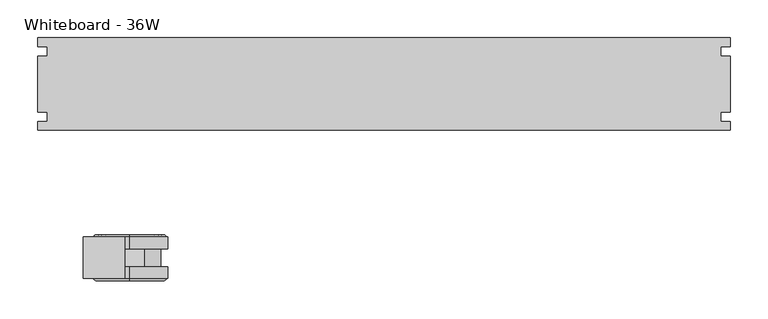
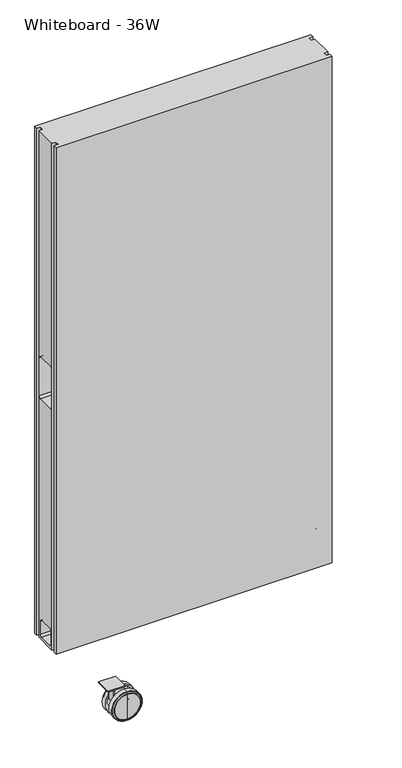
"""IFC4 building model written with IfcOpenShell, lengths in millimetres: furniture geometry, Steelcase Coalesse - Exponents - Storage - Mobile Display Board : Whiteboard - 36W."""

from ifc_helpers import new_model, si_unit, point, frame, frame_2d, origin, place, context, project, spatial, polyline, circle_curve, ellipse_curve, trimmed, segment, composite_curve, outline, extrude, source, transform, mapped, element, save
from ifc_brep_helpers import plane_surface, cylinder_surface, revolved_surface, advanced_brep


def whiteboard_36w_019901e7(model_context):
    return source(origin(), model_context, "Body", "SolidModel", [
        advanced_brep(
        [(914.4, 231.2568925, 1928.6982), (0.0, 231.2568925, 1928.6982), (0.0, 219.8268877, 1928.6982), (12.7000004, 219.8268877, 1928.6982), (12.7000004, 207.2716584, 1928.6982), (0.0, 207.2716584, 1928.6982), (0.0, 133.3221024, 1928.6982), (12.7000004, 133.3221024, 1928.6982), (12.7000004, 120.7668731, 1928.6982), (0.0, 120.7668731, 1928.6982), (0.0, 109.3368683, 1928.6982), (914.4, 109.3368683, 1928.6982), (914.4, 120.7668731, 1928.6982), (901.6999996, 120.7668731, 1928.6982), (901.6999996, 133.3221024, 1928.6982), (914.4, 133.3221024, 1928.6982), (914.4, 207.2716584, 1928.6982), (901.6999996, 207.2716584, 1928.6982), (901.6999996, 219.8268877, 1928.6982), (914.4, 219.8268877, 1928.6982), (914.4, 231.2568925, 155.2702), (914.4, 219.8268877, 155.2702), (901.6999996, 219.8268877, 155.2702), (901.6999996, 207.2716584, 155.2702), (914.4, 207.2716584, 155.2702), (914.4, 133.3221024, 155.2702), (901.6999996, 133.3221024, 155.2702), (901.6999996, 120.7668731, 155.2702), (914.4, 120.7668731, 155.2702), (914.4, 109.3368683, 155.2702), (0.0, 109.3368683, 155.2702), (0.0, 120.7668731, 155.2702), (12.7000004, 120.7668731, 155.2702), (12.7000004, 133.3221024, 155.2702), (0.0, 133.3221024, 155.2702), (0.0, 207.2716584, 155.2702), (12.7000004, 207.2716584, 155.2702), (12.7000004, 219.8268877, 155.2702), (0.0, 219.8268877, 155.2702), (0.0, 231.2568925, 155.2702), (0.0, 198.8718925, 1140.9828993), (0.0, 141.7219046, 1140.9828993), (0.0, 135.3719046, 1134.6328993), (0.0, 135.3719046, 1001.2829477), (0.0, 141.7219046, 994.9329477), (0.0, 198.8718925, 994.9329477), (0.0, 205.2218925, 1001.2829477), (0.0, 205.2218925, 1134.6328993), (0.0, 198.9415891, 216.4334037), (0.0, 192.5915891, 222.7834037), (0.0, 147.5065806, 222.7834037), (0.0, 141.1565806, 216.4334037), (0.0, 141.1565806, 170.3832), (0.0, 147.5065806, 164.0332), (0.0, 192.5915891, 164.0332), (0.0, 198.9415891, 170.3832), (914.4, 141.7219046, 1140.9828993), (914.4, 198.8718925, 1140.9828993), (914.4, 205.2218925, 1134.6328993), (914.4, 205.2218925, 1001.2829477), (914.4, 198.8718925, 994.9329477), (914.4, 141.7219046, 994.9329477), (914.4, 135.3719046, 1001.2829477), (914.4, 135.3719046, 1134.6328993), (914.4, 192.5915891, 222.7834037), (914.4, 198.9415891, 216.4334037), (914.4, 198.9415891, 170.3832), (914.4, 192.5915891, 164.0332), (914.4, 147.5065806, 164.0332), (914.4, 141.1565806, 170.3832), (914.4, 141.1565806, 216.4334037), (914.4, 147.5065806, 222.7834037), (844.55, 141.7219046, 1140.9828993), (844.55, 135.3719046, 1134.6328993), (844.55, 135.3719046, 1001.2829477), (844.55, 141.7219046, 994.9329477), (844.55, 198.8718925, 994.9329477), (844.55, 205.2218925, 1001.2829477), (844.55, 205.2218925, 1134.6328993), (844.55, 198.8718925, 1140.9828993), (844.55, 192.5915891, 222.7834037), (844.55, 147.5065806, 222.7834037), (844.55, 141.1565806, 216.4334037), (844.55, 141.1565806, 170.3832), (844.55, 147.5065806, 164.0332), (844.55, 192.5915891, 164.0332), (844.55, 198.9415891, 170.3832), (844.55, 198.9415891, 216.4334037), (69.85, 141.7219046, 1140.9828993), (69.85, 198.8718925, 1140.9828993), (69.85, 205.2218925, 1134.6328993), (69.85, 205.2218925, 1001.2829477), (69.85, 198.8718925, 994.9329477), (69.85, 141.7219046, 994.9329477), (69.85, 135.3719046, 1001.2829477), (69.85, 135.3719046, 1134.6328993), (69.85, 192.5915891, 222.7834037), (69.85, 198.9415891, 216.4334037), (69.85, 198.9415891, 170.3832), (69.85, 192.5915891, 164.0332), (69.85, 147.5065806, 164.0332), (69.85, 141.1565806, 170.3832), (69.85, 141.1565806, 216.4334037), (69.85, 147.5065806, 222.7834037)],
        [
            (0, 1),
            (1, 2),
            (2, 3),
            (3, 4),
            (4, 5),
            (5, 6),
            (6, 7),
            (7, 8),
            (8, 9),
            (9, 10),
            (10, 11),
            (11, 12),
            (12, 13),
            (13, 14),
            (14, 15),
            (15, 16),
            (16, 17),
            (17, 18),
            (18, 19),
            (19, 0),
            (20, 21),
            (21, 22),
            (22, 23),
            (23, 24),
            (24, 25),
            (25, 26),
            (26, 27),
            (27, 28),
            (28, 29),
            (29, 30),
            (30, 31),
            (31, 32),
            (32, 33),
            (33, 34),
            (34, 35),
            (35, 36),
            (36, 37),
            (37, 38),
            (38, 39),
            (39, 20),
            (0, 20),
            (39, 1),
            (38, 2),
            (37, 3),
            (36, 4),
            (35, 5),
            (34, 6),
            (40, 41),
            (41, 42, circle_curve(frame((0.0, 141.7219046, 1134.6328993), z_axis=(1.0, 0.0, 0.0), x_axis=(0.0, 1.0, 0.0)), 6.35)),
            (42, 43),
            (43, 44, circle_curve(frame((0.0, 141.7219046, 1001.2829477), z_axis=(1.0, 0.0, 0.0), x_axis=(0.0, 1.0, 0.0)), 6.35)),
            (44, 45),
            (45, 46, circle_curve(frame((0.0, 198.8718925, 1001.2829477), z_axis=(1.0, 0.0, 0.0), x_axis=(0.0, 1.0, 0.0)), 6.35)),
            (46, 47),
            (47, 40, circle_curve(frame((0.0, 198.8718925, 1134.6328993), z_axis=(1.0, 0.0, 0.0), x_axis=(0.0, 1.0, 0.0)), 6.35)),
            (48, 49, circle_curve(frame((0.0, 192.5915891, 216.4334037), z_axis=(1.0, 0.0, 0.0), x_axis=(0.0, 1.0, 0.0)), 6.35)),
            (49, 50),
            (50, 51, circle_curve(frame((0.0, 147.5065806, 216.4334037), z_axis=(1.0, 0.0, 0.0), x_axis=(0.0, 1.0, 0.0)), 6.35)),
            (51, 52),
            (52, 53, circle_curve(frame((0.0, 147.5065806, 170.3832), z_axis=(1.0, 0.0, 0.0), x_axis=(0.0, 1.0, 0.0)), 6.35)),
            (53, 54),
            (54, 55, circle_curve(frame((0.0, 192.5915891, 170.3832), z_axis=(1.0, 0.0, 0.0), x_axis=(0.0, 1.0, 0.0)), 6.35)),
            (55, 48),
            (33, 7),
            (32, 8),
            (31, 9),
            (30, 10),
            (29, 11),
            (28, 12),
            (27, 13),
            (26, 14),
            (25, 15),
            (24, 16),
            (56, 57),
            (57, 58, circle_curve(frame((914.4, 198.8718925, 1134.6328993), z_axis=(-1.0, 0.0, 0.0), x_axis=(0.0, 1.0, 0.0)), 6.35)),
            (58, 59),
            (59, 60, circle_curve(frame((914.4, 198.8718925, 1001.2829477), z_axis=(-1.0, 0.0, 0.0), x_axis=(0.0, 1.0, 0.0)), 6.35)),
            (60, 61),
            (61, 62, circle_curve(frame((914.4, 141.7219046, 1001.2829477), z_axis=(-1.0, 0.0, 0.0), x_axis=(0.0, 1.0, 0.0)), 6.35)),
            (62, 63),
            (63, 56, circle_curve(frame((914.4, 141.7219046, 1134.6328993), z_axis=(-1.0, 0.0, 0.0), x_axis=(0.0, 1.0, 0.0)), 6.35)),
            (64, 65, circle_curve(frame((914.4, 192.5915891, 216.4334037), z_axis=(-1.0, 0.0, 0.0), x_axis=(0.0, 1.0, 0.0)), 6.35)),
            (65, 66),
            (66, 67, circle_curve(frame((914.4, 192.5915891, 170.3832), z_axis=(-1.0, 0.0, 0.0), x_axis=(0.0, 1.0, 0.0)), 6.35)),
            (67, 68),
            (68, 69, circle_curve(frame((914.4, 147.5065806, 170.3832), z_axis=(-1.0, 0.0, 0.0), x_axis=(0.0, 1.0, 0.0)), 6.35)),
            (69, 70),
            (70, 71, circle_curve(frame((914.4, 147.5065806, 216.4334037), z_axis=(-1.0, 0.0, 0.0), x_axis=(0.0, 1.0, 0.0)), 6.35)),
            (71, 64),
            (23, 17),
            (22, 18),
            (21, 19),
            (72, 73, circle_curve(frame((844.55, 141.7219046, 1134.6328993), z_axis=(1.0, 0.0, 0.0), x_axis=(0.0, 1.0, 0.0)), 6.35)),
            (73, 74),
            (74, 75, circle_curve(frame((844.55, 141.7219046, 1001.2829477), z_axis=(1.0, 0.0, 0.0), x_axis=(0.0, 1.0, 0.0)), 6.35)),
            (75, 76),
            (76, 77, circle_curve(frame((844.55, 198.8718925, 1001.2829477), z_axis=(1.0, 0.0, 0.0), x_axis=(0.0, 1.0, 0.0)), 6.35)),
            (77, 78),
            (78, 79, circle_curve(frame((844.55, 198.8718925, 1134.6328993), z_axis=(1.0, 0.0, 0.0), x_axis=(0.0, 1.0, 0.0)), 6.35)),
            (79, 72),
            (80, 81),
            (81, 82, circle_curve(frame((844.55, 147.5065806, 216.4334037), z_axis=(1.0, 0.0, 0.0), x_axis=(0.0, 1.0, 0.0)), 6.35)),
            (82, 83),
            (83, 84, circle_curve(frame((844.55, 147.5065806, 170.3832), z_axis=(1.0, 0.0, 0.0), x_axis=(0.0, 1.0, 0.0)), 6.35)),
            (84, 85),
            (85, 86, circle_curve(frame((844.55, 192.5915891, 170.3832), z_axis=(1.0, 0.0, 0.0), x_axis=(0.0, 1.0, 0.0)), 6.35)),
            (86, 87),
            (87, 80, circle_curve(frame((844.55, 192.5915891, 216.4334037), z_axis=(1.0, 0.0, 0.0), x_axis=(0.0, 1.0, 0.0)), 6.35)),
            (79, 57),
            (56, 72),
            (78, 58),
            (77, 59),
            (76, 60),
            (75, 61),
            (74, 62),
            (73, 63),
            (87, 65),
            (64, 80),
            (86, 66),
            (85, 67),
            (84, 68),
            (83, 69),
            (82, 70),
            (81, 71),
            (88, 89),
            (89, 90, circle_curve(frame((69.85, 198.8718925, 1134.6328993), z_axis=(-1.0, 0.0, 0.0), x_axis=(0.0, 1.0, 0.0)), 6.35)),
            (90, 91),
            (91, 92, circle_curve(frame((69.85, 198.8718925, 1001.2829477), z_axis=(-1.0, 0.0, 0.0), x_axis=(0.0, 1.0, 0.0)), 6.35)),
            (92, 93),
            (93, 94, circle_curve(frame((69.85, 141.7219046, 1001.2829477), z_axis=(-1.0, 0.0, 0.0), x_axis=(0.0, 1.0, 0.0)), 6.35)),
            (94, 95),
            (95, 88, circle_curve(frame((69.85, 141.7219046, 1134.6328993), z_axis=(-1.0, 0.0, 0.0), x_axis=(0.0, 1.0, 0.0)), 6.35)),
            (96, 97, circle_curve(frame((69.85, 192.5915891, 216.4334037), z_axis=(-1.0, 0.0, 0.0), x_axis=(0.0, 1.0, 0.0)), 6.35)),
            (97, 98),
            (98, 99, circle_curve(frame((69.85, 192.5915891, 170.3832), z_axis=(-1.0, 0.0, 0.0), x_axis=(0.0, 1.0, 0.0)), 6.35)),
            (99, 100),
            (100, 101, circle_curve(frame((69.85, 147.5065806, 170.3832), z_axis=(-1.0, 0.0, 0.0), x_axis=(0.0, 1.0, 0.0)), 6.35)),
            (101, 102),
            (102, 103, circle_curve(frame((69.85, 147.5065806, 216.4334037), z_axis=(-1.0, 0.0, 0.0), x_axis=(0.0, 1.0, 0.0)), 6.35)),
            (103, 96),
            (95, 42),
            (41, 88),
            (94, 43),
            (93, 44),
            (92, 45),
            (91, 46),
            (90, 47),
            (89, 40),
            (103, 50),
            (49, 96),
            (102, 51),
            (101, 52),
            (100, 53),
            (99, 54),
            (98, 55),
            (97, 48),
        ],
        [
            plane_surface(frame((0.0, 231.2568925, 1928.6982), z_axis=(0.0, 0.0, 1.0), x_axis=(-1.0, 0.0, 0.0))),
            plane_surface(frame((0.0, 231.2568925, 155.2702), z_axis=(0.0, 0.0, -1.0), x_axis=(1.0, 0.0, 0.0))),
            plane_surface(frame((914.4, 231.2568925, 1928.6982), z_axis=(0.0, 1.0, 0.0), x_axis=(0.0, 0.0, -1.0))),
            plane_surface(frame((0.0, 231.2568925, 1928.6982), z_axis=(-1.0, 0.0, 0.0), x_axis=(0.0, 0.0, -1.0))),
            plane_surface(frame((0.0, 219.8268877, 1928.6982), z_axis=(0.0, -1.0, 0.0), x_axis=(0.0, 0.0, -1.0))),
            plane_surface(frame((12.7000004, 219.8268877, 1928.6982), z_axis=(-1.0, 0.0, 0.0), x_axis=(0.0, 0.0, -1.0))),
            plane_surface(frame((12.7000004, 207.2716584, 1928.6982), z_axis=(0.0, 1.0, 0.0), x_axis=(0.0, 0.0, -1.0))),
            plane_surface(frame((0.0, 207.2716584, 1928.6982), z_axis=(-1.0, 0.0, 0.0), x_axis=(0.0, 0.0, -1.0))),
            plane_surface(frame((0.0, 133.3221024, 1928.6982), z_axis=(0.0, -1.0, 0.0), x_axis=(0.0, 0.0, -1.0))),
            plane_surface(frame((12.7000004, 133.3221024, 1928.6982), z_axis=(-1.0, 0.0, 0.0), x_axis=(0.0, 0.0, -1.0))),
            plane_surface(frame((12.7000004, 120.7668731, 1928.6982), z_axis=(0.0, 1.0, 0.0), x_axis=(0.0, 0.0, -1.0))),
            plane_surface(frame((0.0, 120.7668731, 1928.6982), z_axis=(-1.0, 0.0, 0.0), x_axis=(0.0, 0.0, -1.0))),
            plane_surface(frame((0.0, 109.3368683, 1928.6982), z_axis=(0.0, -1.0, 0.0), x_axis=(0.0, 0.0, -1.0))),
            plane_surface(frame((914.4, 109.3368683, 1928.6982), z_axis=(1.0, 0.0, 0.0), x_axis=(0.0, 0.0, -1.0))),
            plane_surface(frame((914.4, 120.7668731, 1928.6982), z_axis=(0.0, 1.0, 0.0), x_axis=(0.0, 0.0, -1.0))),
            plane_surface(frame((901.6999996, 120.7668731, 1928.6982), z_axis=(1.0, 0.0, 0.0), x_axis=(0.0, 0.0, -1.0))),
            plane_surface(frame((901.6999996, 133.3221024, 1928.6982), z_axis=(0.0, -1.0, 0.0), x_axis=(0.0, 0.0, -1.0))),
            plane_surface(frame((914.4, 133.3221024, 1928.6982), z_axis=(1.0, 0.0, 0.0), x_axis=(0.0, 0.0, -1.0))),
            plane_surface(frame((914.4, 207.2716584, 1928.6982), z_axis=(0.0, 1.0, 0.0), x_axis=(0.0, 0.0, -1.0))),
            plane_surface(frame((901.6999996, 207.2716584, 1928.6982), z_axis=(1.0, 0.0, 0.0), x_axis=(0.0, 0.0, -1.0))),
            plane_surface(frame((901.6999996, 219.8268877, 1928.6982), z_axis=(0.0, -1.0, 0.0), x_axis=(0.0, 0.0, -1.0))),
            plane_surface(frame((914.4, 219.8268877, 1928.6982), z_axis=(1.0, 0.0, 0.0), x_axis=(0.0, 0.0, -1.0))),
            plane_surface(frame((844.55, 198.8718804, 1140.9828993), z_axis=(1.0, 0.0, 0.0), x_axis=(0.0, 1.0, 0.0))),
            plane_surface(frame((844.55, 141.7219046, 1140.9828993), z_axis=(0.0, 0.0, -1.0), x_axis=(1.0, 0.0, 0.0))),
            revolved_surface(polyline([(844.55, 205.2218925, 1134.6328993), (914.4, 205.2218925, 1134.6328993)]), (914.4, 198.8718925, 1134.6328993), (-1.0, 0.0, 0.0)),
            plane_surface(frame((844.55, 205.2218925, 1134.6328993), z_axis=(0.0, -1.0, 0.0), x_axis=(1.0, 0.0, 0.0))),
            revolved_surface(polyline([(844.55, 205.2218925, 1001.2829477), (914.4, 205.2218925, 1001.2829477)]), (914.4, 198.8718925, 1001.2829477), (-1.0, 0.0, 0.0)),
            plane_surface(frame((844.55, 198.8718925, 994.9329477), z_axis=(0.0, 0.0, 1.0), x_axis=(1.0, 0.0, 0.0))),
            revolved_surface(polyline([(844.55, 148.07190459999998, 1001.2829477), (914.4, 148.07190459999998, 1001.2829477)]), (914.4, 141.7219046, 1001.2829477), (-1.0, 0.0, 0.0)),
            plane_surface(frame((844.55, 135.3719046, 1001.2829477), z_axis=(0.0, 1.0, 0.0), x_axis=(1.0, 0.0, 0.0))),
            revolved_surface(polyline([(844.55, 148.07190459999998, 1134.6328993), (914.4, 148.07190459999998, 1134.6328993)]), (914.4, 141.7219046, 1134.6328993), (-1.0, 0.0, 0.0)),
            revolved_surface(polyline([(844.55, 198.9415891, 216.4334037), (914.4, 198.9415891, 216.4334037)]), (1220.4699806, 192.5915891, 216.4334037), (-1.0, 0.0, 0.0)),
            plane_surface(frame((844.55, 198.9415891, 216.4334037), z_axis=(0.0, -1.0, 0.0), x_axis=(1.0, 0.0, 0.0))),
            revolved_surface(polyline([(844.55, 198.9415891, 170.3832), (914.4, 198.9415891, 170.3832)]), (1220.4699806, 192.5915891, 170.3832), (-1.0, 0.0, 0.0)),
            plane_surface(frame((844.55, 192.5915891, 164.0332), z_axis=(0.0, 0.0, 1.0), x_axis=(1.0, 0.0, 0.0))),
            revolved_surface(polyline([(844.55, 153.8565806, 170.3832), (914.4, 153.8565806, 170.3832)]), (1220.4699806, 147.5065806, 170.3832), (-1.0, 0.0, 0.0)),
            plane_surface(frame((844.55, 141.1565806, 170.3832), z_axis=(0.0, 1.0, 0.0), x_axis=(1.0, 0.0, 0.0))),
            revolved_surface(polyline([(844.55, 153.8565806, 216.4334037), (914.4, 153.8565806, 216.4334037)]), (1220.4699806, 147.5065806, 216.4334037), (-1.0, 0.0, 0.0)),
            plane_surface(frame((844.55, 147.5065806, 222.7834037), z_axis=(0.0, 0.0, -1.0), x_axis=(1.0, 0.0, 0.0))),
            plane_surface(frame((69.85, 148.0719046, 1134.6328993), z_axis=(-1.0, 0.0, 0.0), x_axis=(0.0, 0.0, 1.0))),
            revolved_surface(polyline([(69.85, 148.07190459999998, 1134.6328993), (0.0, 148.07190459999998, 1134.6328993)]), (0.0, 141.7219046, 1134.6328993), (1.0, 0.0, 0.0)),
            plane_surface(frame((69.85, 135.3719046, 1134.6328993), z_axis=(0.0, 1.0, 0.0), x_axis=(-1.0, 0.0, 0.0))),
            revolved_surface(polyline([(69.85, 148.07190459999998, 1001.2829477), (0.0, 148.07190459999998, 1001.2829477)]), (0.0, 141.7219046, 1001.2829477), (1.0, 0.0, 0.0)),
            plane_surface(frame((69.85, 141.7219046, 994.9329477), z_axis=(0.0, 0.0, 1.0), x_axis=(-1.0, 0.0, 0.0))),
            revolved_surface(polyline([(69.85, 205.2218925, 1001.2829477), (0.0, 205.2218925, 1001.2829477)]), (0.0, 198.8718925, 1001.2829477), (1.0, 0.0, 0.0)),
            plane_surface(frame((69.85, 205.2218925, 1001.2829477), z_axis=(0.0, -1.0, 0.0), x_axis=(-1.0, 0.0, 0.0))),
            revolved_surface(polyline([(69.85, 205.2218925, 1134.6328993), (0.0, 205.2218925, 1134.6328993)]), (0.0, 198.8718925, 1134.6328993), (1.0, 0.0, 0.0)),
            plane_surface(frame((69.85, 198.8718925, 1140.9828993), z_axis=(0.0, 0.0, -1.0), x_axis=(-1.0, 0.0, 0.0))),
            plane_surface(frame((69.85, 192.5915891, 222.7834037), z_axis=(0.0, 0.0, -1.0), x_axis=(-1.0, 0.0, 0.0))),
            revolved_surface(polyline([(69.85, 153.8565806, 216.4334037), (0.0, 153.8565806, 216.4334037)]), (0.0, 147.5065806, 216.4334037), (1.0, 0.0, 0.0)),
            plane_surface(frame((69.85, 141.1565806, 216.4334037), z_axis=(0.0, 1.0, 0.0), x_axis=(-1.0, 0.0, 0.0))),
            revolved_surface(polyline([(69.85, 153.8565806, 170.3832), (0.0, 153.8565806, 170.3832)]), (0.0, 147.5065806, 170.3832), (1.0, 0.0, 0.0)),
            plane_surface(frame((69.85, 147.5065806, 164.0332), z_axis=(0.0, 0.0, 1.0), x_axis=(-1.0, 0.0, 0.0))),
            revolved_surface(polyline([(69.85, 198.9415891, 170.3832), (0.0, 198.9415891, 170.3832)]), (0.0, 192.5915891, 170.3832), (1.0, 0.0, 0.0)),
            plane_surface(frame((69.85, 198.9415891, 170.3832), z_axis=(0.0, -1.0, 0.0), x_axis=(-1.0, 0.0, 0.0))),
            revolved_surface(polyline([(69.85, 198.9415891, 216.4334037), (0.0, 198.9415891, 216.4334037)]), (0.0, 192.5915891, 216.4334037), (1.0, 0.0, 0.0)),
        ],
        [
            (0, [[1, 2, 3, 4, 5, 6, 7, 8, 9, 10, 11, 12, 13, 14, 15, 16, 17, 18, 19, 20]]),
            (1, [[21, 22, 23, 24, 25, 26, 27, 28, 29, 30, 31, 32, 33, 34, 35, 36, 37, 38, 39, 40]]),
            (2, [[-1, 41, -40, 42]]),
            (3, [[-2, -42, -39, 43]]),
            (4, [[-3, -43, -38, 44]]),
            (5, [[-4, -44, -37, 45]]),
            (6, [[-5, -45, -36, 46]]),
            (7, [[-6, -46, -35, 47], [48, 49, 50, 51, 52, 53, 54, 55], [56, 57, 58, 59, 60, 61, 62, 63]]),
            (8, [[-7, -47, -34, 64]]),
            (9, [[-8, -64, -33, 65]]),
            (10, [[-9, -65, -32, 66]]),
            (11, [[-10, -66, -31, 67]]),
            (12, [[-11, -67, -30, 68]]),
            (13, [[-12, -68, -29, 69]]),
            (14, [[-13, -69, -28, 70]]),
            (15, [[-14, -70, -27, 71]]),
            (16, [[-15, -71, -26, 72]]),
            (17, [[-16, -72, -25, 73], [74, 75, 76, 77, 78, 79, 80, 81], [82, 83, 84, 85, 86, 87, 88, 89]]),
            (18, [[-17, -73, -24, 90]]),
            (19, [[-18, -90, -23, 91]]),
            (20, [[-19, -91, -22, 92]]),
            (21, [[-20, -92, -21, -41]]),
            (22, [[93, 94, 95, 96, 97, 98, 99, 100]]),
            (22, [[101, 102, 103, 104, 105, 106, 107, 108]]),
            (23, [[-100, 109, -74, 110]]),
            (24, [[-99, 111, -75, -109]]),
            (25, [[-98, 112, -76, -111]]),
            (26, [[-97, 113, -77, -112]]),
            (27, [[-96, 114, -78, -113]]),
            (28, [[-95, 115, -79, -114]]),
            (29, [[-94, 116, -80, -115]]),
            (30, [[-93, -110, -81, -116]]),
            (31, [[-108, 117, -82, 118]]),
            (32, [[-107, 119, -83, -117]]),
            (33, [[-106, 120, -84, -119]]),
            (34, [[-105, 121, -85, -120]]),
            (35, [[-104, 122, -86, -121]]),
            (36, [[-103, 123, -87, -122]]),
            (37, [[-102, 124, -88, -123]]),
            (38, [[-101, -118, -89, -124]]),
            (39, [[125, 126, 127, 128, 129, 130, 131, 132]]),
            (39, [[133, 134, 135, 136, 137, 138, 139, 140]]),
            (40, [[-132, 141, -49, 142]]),
            (41, [[-131, 143, -50, -141]]),
            (42, [[-130, 144, -51, -143]]),
            (43, [[-129, 145, -52, -144]]),
            (44, [[-128, 146, -53, -145]]),
            (45, [[-127, 147, -54, -146]]),
            (46, [[-126, 148, -55, -147]]),
            (47, [[-125, -142, -48, -148]]),
            (48, [[-140, 149, -57, 150]]),
            (49, [[-139, 151, -58, -149]]),
            (50, [[-138, 152, -59, -151]]),
            (51, [[-137, 153, -60, -152]]),
            (52, [[-136, 154, -61, -153]]),
            (53, [[-135, 155, -62, -154]]),
            (54, [[-134, 156, -63, -155]]),
            (55, [[-133, -150, -56, -156]]),
        ],
    ),
        advanced_brep(
        [(121.6278984, -28.9699484, 93.7248565), (121.6278984, -28.9699484, 7.16417), (121.6278984, -28.9699484, 50.4445132), (121.6278984, -29.195866, 95.950615), (121.6278984, -29.195866, 4.9384115), (121.6278984, -31.890984, 99.0695917), (121.6278984, -31.890984, 1.8194348), (121.6278984, -31.890984, 100.8890265), (121.6278984, -31.890984, 0.0), (121.6278984, -47.5881484, 100.8890265), (121.6278984, -47.5881484, 0.0), (121.6278984, -47.5881484, 67.9452274), (121.6278984, -47.5881484, 32.943799), (121.6278984, -51.5441984, 67.9452274), (121.6278984, -51.5441984, 32.943799), (121.6278984, -51.5441984, 50.4445132)],
        [
            (0, 1, circle_curve(frame((121.6278984, -28.9699484, 50.4445132), z_axis=(0.0, 1.0, 0.0), x_axis=(0.0, 0.0, -1.0)), 43.2803433)),
            (1, 2),
            (2, 0),
            (1, 0, circle_curve(frame((121.6278984, -28.9699484, 50.4445132), z_axis=(0.0, 1.0, 0.0), x_axis=(0.0, 0.0, -1.0)), 43.2803433)),
            (3, 4, circle_curve(frame((121.6278984, -29.195866, 50.4445132), z_axis=(0.0, 1.0, 0.0), x_axis=(0.0, 0.0, -1.0)), 45.5061018)),
            (4, 1, circle_curve(frame((121.6278984, -40.0470836, 7.16417), z_axis=(1.0, 0.0, 0.0), x_axis=(0.0, 1.0, 0.0)), 11.0771352)),
            (0, 3, circle_curve(frame((121.6278984, -40.0470836, 93.7248565), z_axis=(1.0, 0.0, 0.0), x_axis=(0.0, 1.0, 0.0)), 11.0771352)),
            (4, 3, circle_curve(frame((121.6278984, -29.195866, 50.4445132), z_axis=(0.0, 1.0, 0.0), x_axis=(0.0, 0.0, -1.0)), 45.5061018)),
            (5, 6, circle_curve(frame((121.6278984, -31.890984, 50.4445132), z_axis=(0.0, 1.0, 0.0), x_axis=(0.0, 0.0, -1.0)), 48.6250784)),
            (6, 4, circle_curve(frame((121.6278984, -33.3293578, 5.7862568), z_axis=(1.0, 0.0, 0.0), x_axis=(0.0, 1.0, 0.0)), 4.2195493)),
            (3, 5, circle_curve(frame((121.6278984, -33.3293578, 95.1027696), z_axis=(1.0, 0.0, 0.0), x_axis=(0.0, 1.0, 0.0)), 4.2195493)),
            (6, 5, circle_curve(frame((121.6278984, -31.890984, 50.4445132), z_axis=(0.0, 1.0, 0.0), x_axis=(0.0, 0.0, -1.0)), 48.6250784)),
            (7, 8, circle_curve(frame((121.6278984, -31.890984, 50.4445132), z_axis=(0.0, 1.0, 0.0), x_axis=(0.0, 0.0, -1.0)), 50.4445132)),
            (8, 6),
            (5, 7),
            (8, 7, circle_curve(frame((121.6278984, -31.890984, 50.4445132), z_axis=(0.0, 1.0, 0.0), x_axis=(0.0, 0.0, -1.0)), 50.4445132)),
            (9, 10, circle_curve(frame((121.6278984, -47.5881484, 50.4445132), z_axis=(0.0, 1.0, 0.0), x_axis=(0.0, 0.0, -1.0)), 50.4445132)),
            (10, 8),
            (7, 9),
            (10, 9, circle_curve(frame((121.6278984, -47.5881484, 50.4445132), z_axis=(0.0, 1.0, 0.0), x_axis=(0.0, 0.0, -1.0)), 50.4445132)),
            (11, 12, circle_curve(frame((121.6278984, -47.5881484, 50.4445132), z_axis=(0.0, 1.0, 0.0), x_axis=(0.0, 0.0, -1.0)), 17.5007142)),
            (12, 10),
            (9, 11),
            (12, 11, circle_curve(frame((121.6278984, -47.5881484, 50.4445132), z_axis=(0.0, 1.0, 0.0), x_axis=(0.0, 0.0, -1.0)), 17.5007142)),
            (13, 14, circle_curve(frame((121.6278984, -51.5441984, 50.4445132), z_axis=(0.0, 1.0, 0.0), x_axis=(0.0, 0.0, -1.0)), 17.5007142)),
            (14, 12),
            (11, 13),
            (14, 13, circle_curve(frame((121.6278984, -51.5441984, 50.4445132), z_axis=(0.0, 1.0, 0.0), x_axis=(0.0, 0.0, -1.0)), 17.5007142)),
            (15, 14),
            (13, 15),
        ],
        [
            plane_surface(frame((121.6278984, -28.9699484, 50.4445132), z_axis=(0.0, 1.0, 0.0), x_axis=(0.0, 0.0, -1.0))),
            revolved_surface(trimmed(ellipse_curve(frame((121.6278984, -40.0470836, 7.16417), z_axis=(-1.0, 0.0, 0.0), x_axis=(0.0, 1.0, 0.0)), 11.0771352, 11.0771352), [point((121.6278984, -28.9699484, 7.16417))], [point((121.6278984, -29.195866, 4.9384115))], True, "CARTESIAN"), (121.6278984, -32.3354484, 50.4445132), (0.0, -1.0, 0.0)),
            revolved_surface(trimmed(ellipse_curve(frame((121.6278984, -33.3293578, 5.7862568), z_axis=(-1.0, 0.0, 0.0), x_axis=(0.0, 1.0, 0.0)), 4.2195493, 4.2195493), [point((121.6278984, -29.195866, 4.9384115))], [point((121.6278984, -31.890984, 1.8194348))], True, "CARTESIAN"), (121.6278984, -32.3354484, 50.4445132), (0.0, -1.0, 0.0)),
            plane_surface(frame((121.6278984, -31.890984, 50.4445132), z_axis=(0.0, 1.0, 0.0), x_axis=(0.0, 0.0, -1.0))),
            cylinder_surface(frame((121.6278984, -32.3354484, 50.4445132), z_axis=(0.0, -1.0, 0.0), x_axis=(0.0, 0.0, -1.0)), 50.4445132),
            plane_surface(frame((121.6278984, -47.5881484, 50.4445132), z_axis=(0.0, -1.0, 0.0), x_axis=(0.0, 0.0, -1.0))),
            cylinder_surface(frame((121.6278984, -32.3354484, 50.4445132), z_axis=(0.0, -1.0, 0.0), x_axis=(0.0, 0.0, -1.0)), 17.5007142),
            plane_surface(frame((121.6278984, -51.5441984, 50.4445132), z_axis=(0.0, -1.0, 0.0), x_axis=(0.0, 0.0, -1.0))),
        ],
        [
            (0, [[1, 2, 3]]),
            (0, [[4, -3, -2]]),
            (1, [[5, 6, -1, 7]]),
            (1, [[8, -7, -4, -6]]),
            (2, [[9, 10, -5, 11]]),
            (2, [[12, -11, -8, -10]]),
            (3, [[13, 14, -9, 15]]),
            (3, [[16, -15, -12, -14]]),
            (4, [[17, 18, -13, 19]]),
            (4, [[20, -19, -16, -18]]),
            (5, [[21, 22, -17, 23]]),
            (5, [[24, -23, -20, -22]]),
            (6, [[25, 26, -21, 27]]),
            (6, [[28, -27, -24, -26]]),
            (7, [[29, -25, 30]]),
            (7, [[-30, -28, -29]]),
        ],
    ),
        extrude(outline(composite_curve([segment(polyline([(51.3715027, 152.4507984), (28.4632097, 152.4507984)]), True, "CONTINUOUS"), segment(trimmed(circle_curve(frame_2d((55.7451933, 120.0457245)), 42.360305), [point((28.4632097, 152.4507984))], [point((92.46506, 141.1655453))], False, "CARTESIAN"), True, "CONTINUOUS"), segment(trimmed(circle_curve(frame_2d((52.6047711, 122.1125998)), 44.1798299), [point((92.46506, 141.1655453))], [point((51.3715027, 77.9499865))], False, "CARTESIAN"), True, "CONTINUOUS"), segment(polyline([(51.3715027, 77.9499865), (51.3715027, 152.4507984)]), True, "CONTINUOUS")], self_intersect=False)), frame((0.0, -71.1936132, 0.0), z_axis=(0.0, 1.0, 0.0), x_axis=(0.0, 0.0, 1.0)), (0.0, 0.0, 1.0), 23.6054648),
        extrude(outline(composite_curve([segment(trimmed(circle_curve(frame_2d((87.284686, -59.3908808)), 7.6088517), [point((87.284686, -51.7820291))], [point((87.284686, -66.9997325))], False, "CARTESIAN"), True, "CONTINUOUS"), segment(trimmed(circle_curve(frame_2d((87.284686, -59.3908808)), 7.6088517), [point((87.284686, -66.9997325))], [point((87.284686, -51.7820291))], False, "CARTESIAN"), True, "CONTINUOUS")], self_intersect=False)), frame((0.0, 0.0, 71.2879049), z_axis=(0.0, 0.0, 1.0), x_axis=(1.0, 0.0, 0.0)), (0.0, 0.0, 1.0), 48.3206977),
        extrude(outline(polyline([(114.9222984, -86.9387325), (59.8042984, -86.9387325), (59.8042984, -31.8207325), (114.9222984, -31.8207325), (114.9222984, -86.9387325)])), frame((0.0, 0.0, 119.6086027), z_axis=(0.0, 0.0, 1.0), x_axis=(1.0, 0.0, 0.0)), (0.0, 0.0, 1.0), 3.302),
        advanced_brep(
        [(121.6278984, -67.2375632, 67.9452274), (121.6278984, -67.2375632, 32.943799), (121.6278984, -67.2375632, 50.4445132), (121.6278984, -71.1936132, 67.9452274), (121.6278984, -71.1936132, 32.943799), (121.6278984, -71.1936132, 100.8890265), (121.6278984, -71.1936132, 0.0), (121.6278984, -86.8907776, 100.8890265), (121.6278984, -86.8907776, 0.0), (121.6278984, -86.8907776, 99.0695917), (121.6278984, -86.8907776, 1.8194348), (121.6278984, -89.5858956, 95.950615), (121.6278984, -89.5858956, 4.9384115), (121.6278984, -89.8118132, 93.7248565), (121.6278984, -89.8118132, 7.16417), (121.6278984, -89.8118132, 50.4445132)],
        [
            (0, 1, circle_curve(frame((121.6278984, -67.2375632, 50.4445132), z_axis=(0.0, 1.0, 0.0), x_axis=(0.0, 0.0, -1.0)), 17.5007142)),
            (1, 2),
            (2, 0),
            (1, 0, circle_curve(frame((121.6278984, -67.2375632, 50.4445132), z_axis=(0.0, 1.0, 0.0), x_axis=(0.0, 0.0, -1.0)), 17.5007142)),
            (3, 4, circle_curve(frame((121.6278984, -71.1936132, 50.4445132), z_axis=(0.0, 1.0, 0.0), x_axis=(0.0, 0.0, -1.0)), 17.5007142)),
            (4, 1),
            (0, 3),
            (4, 3, circle_curve(frame((121.6278984, -71.1936132, 50.4445132), z_axis=(0.0, 1.0, 0.0), x_axis=(0.0, 0.0, -1.0)), 17.5007142)),
            (5, 6, circle_curve(frame((121.6278984, -71.1936132, 50.4445132), z_axis=(0.0, 1.0, 0.0), x_axis=(0.0, 0.0, -1.0)), 50.4445132)),
            (6, 4),
            (3, 5),
            (6, 5, circle_curve(frame((121.6278984, -71.1936132, 50.4445132), z_axis=(0.0, 1.0, 0.0), x_axis=(0.0, 0.0, -1.0)), 50.4445132)),
            (7, 8, circle_curve(frame((121.6278984, -86.8907776, 50.4445132), z_axis=(0.0, 1.0, 0.0), x_axis=(0.0, 0.0, -1.0)), 50.4445132)),
            (8, 6),
            (5, 7),
            (8, 7, circle_curve(frame((121.6278984, -86.8907776, 50.4445132), z_axis=(0.0, 1.0, 0.0), x_axis=(0.0, 0.0, -1.0)), 50.4445132)),
            (9, 10, circle_curve(frame((121.6278984, -86.8907776, 50.4445132), z_axis=(0.0, 1.0, 0.0), x_axis=(0.0, 0.0, -1.0)), 48.6250784)),
            (10, 8),
            (7, 9),
            (10, 9, circle_curve(frame((121.6278984, -86.8907776, 50.4445132), z_axis=(0.0, 1.0, 0.0), x_axis=(0.0, 0.0, -1.0)), 48.6250784)),
            (11, 12, circle_curve(frame((121.6278984, -89.5858956, 50.4445132), z_axis=(0.0, 1.0, 0.0), x_axis=(0.0, 0.0, -1.0)), 45.5061018)),
            (12, 10, circle_curve(frame((121.6278984, -85.4524038, 5.7862568), z_axis=(1.0, 0.0, 0.0), x_axis=(0.0, -1.0, 0.0)), 4.2195493)),
            (9, 11, circle_curve(frame((121.6278984, -85.4524038, 95.1027696), z_axis=(1.0, 0.0, 0.0), x_axis=(0.0, -1.0, 0.0)), 4.2195493)),
            (12, 11, circle_curve(frame((121.6278984, -89.5858956, 50.4445132), z_axis=(0.0, 1.0, 0.0), x_axis=(0.0, 0.0, -1.0)), 45.5061018)),
            (13, 14, circle_curve(frame((121.6278984, -89.8118132, 50.4445132), z_axis=(0.0, 1.0, 0.0), x_axis=(0.0, 0.0, -1.0)), 43.2803433)),
            (14, 12, circle_curve(frame((121.6278984, -78.734678, 7.16417), z_axis=(1.0, 0.0, 0.0), x_axis=(0.0, -1.0, 0.0)), 11.0771352)),
            (11, 13, circle_curve(frame((121.6278984, -78.734678, 93.7248565), z_axis=(1.0, 0.0, 0.0), x_axis=(0.0, -1.0, 0.0)), 11.0771352)),
            (14, 13, circle_curve(frame((121.6278984, -89.8118132, 50.4445132), z_axis=(0.0, 1.0, 0.0), x_axis=(0.0, 0.0, -1.0)), 43.2803433)),
            (15, 14),
            (13, 15),
        ],
        [
            plane_surface(frame((121.6278984, -67.2375632, 50.4445132), z_axis=(0.0, 1.0, 0.0), x_axis=(0.0, 0.0, -1.0))),
            cylinder_surface(frame((121.6278984, -86.4463132, 50.4445132), z_axis=(0.0, -1.0, 0.0), x_axis=(0.0, 0.0, -1.0)), 17.5007142),
            plane_surface(frame((121.6278984, -71.1936132, 50.4445132), z_axis=(0.0, 1.0, 0.0), x_axis=(0.0, 0.0, -1.0))),
            cylinder_surface(frame((121.6278984, -86.4463132, 50.4445132), z_axis=(0.0, -1.0, 0.0), x_axis=(0.0, 0.0, -1.0)), 50.4445132),
            plane_surface(frame((121.6278984, -86.8907776, 50.4445132), z_axis=(0.0, -1.0, 0.0), x_axis=(0.0, 0.0, -1.0))),
            revolved_surface(trimmed(ellipse_curve(frame((121.6278984, -85.4524038, 5.7862568), z_axis=(-1.0, 0.0, 0.0), x_axis=(0.0, -1.0, 0.0)), 4.2195493, 4.2195493), [point((121.6278984, -86.8907776, 1.8194348))], [point((121.6278984, -89.5858956, 4.9384115))], True, "CARTESIAN"), (121.6278984, -86.4463132, 50.4445132), (0.0, -1.0, 0.0)),
            revolved_surface(trimmed(ellipse_curve(frame((121.6278984, -78.734678, 7.16417), z_axis=(-1.0, 0.0, 0.0), x_axis=(0.0, -1.0, 0.0)), 11.0771352, 11.0771352), [point((121.6278984, -89.5858956, 4.9384115))], [point((121.6278984, -89.8118132, 7.16417))], True, "CARTESIAN"), (121.6278984, -86.4463132, 50.4445132), (0.0, -1.0, 0.0)),
            plane_surface(frame((121.6278984, -89.8118132, 50.4445132), z_axis=(0.0, -1.0, 0.0), x_axis=(0.0, 0.0, -1.0))),
        ],
        [
            (0, [[1, 2, 3]]),
            (0, [[4, -3, -2]]),
            (1, [[5, 6, -1, 7]]),
            (1, [[8, -7, -4, -6]]),
            (2, [[9, 10, -5, 11]]),
            (2, [[12, -11, -8, -10]]),
            (3, [[13, 14, -9, 15]]),
            (3, [[16, -15, -12, -14]]),
            (4, [[17, 18, -13, 19]]),
            (4, [[20, -19, -16, -18]]),
            (5, [[21, 22, -17, 23]]),
            (5, [[24, -23, -20, -22]]),
            (6, [[25, 26, -21, 27]]),
            (6, [[28, -27, -24, -26]]),
            (7, [[29, -25, 30]]),
            (7, [[-30, -28, -29]]),
        ],
    ),
    ])


if __name__ == "__main__":
    model = new_model("IFC4")
    model_context = context("Model", 3, world=origin())
    ifc_project = project(units=[si_unit("LENGTHUNIT", "METRE", prefix="MILLI")], contexts=[model_context])
    site = spatial("IfcSite", under=ifc_project)
    building = spatial("IfcBuilding", under=site)
    placement = place(None, origin())
    whiteboard_36w_shape = whiteboard_36w_019901e7(model_context)
    element("IfcFurniture", 1, ObjectType="Steelcase Coalesse - Exponents - Storage - Mobile Display Board : Whiteboard - 36W", at=placement, inside=building, context=model_context, shape_type="MappedRepresentation", body=[
        mapped(whiteboard_36w_shape, transform((0.0, 0.0, 0.0), x_axis=(1.0, 0.0, 0.0), y_axis=(0.0, 1.0, 0.0), z_axis=(0.0, 0.0, 1.0))),
    ])
    save(model, "model.ifc")
